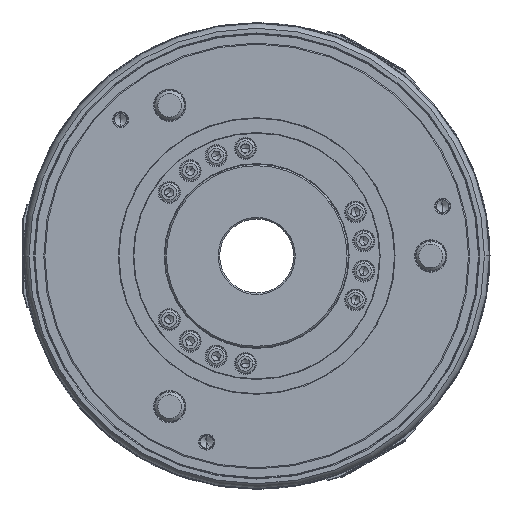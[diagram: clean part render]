
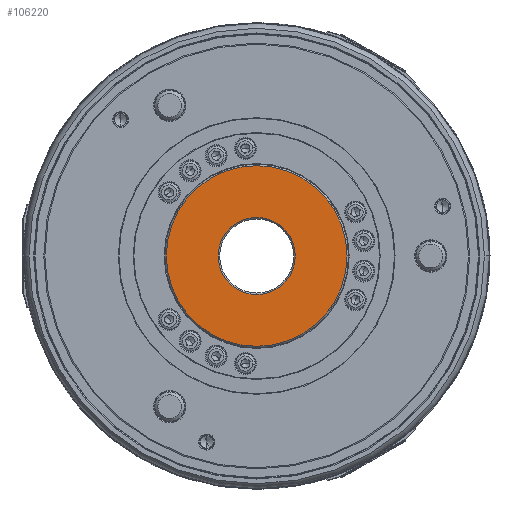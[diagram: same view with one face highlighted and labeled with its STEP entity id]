
A CAD part, left-side view. The second image highlights one B-rep face of the part: STEP entity #106220.
In plain terms, the highlighted planar face has unit normal (-1, 0, 0).
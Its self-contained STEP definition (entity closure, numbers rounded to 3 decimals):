
#241 = CARTESIAN_POINT ( 'NONE',  ( 0., 0., 0. ) ) ;
#7878 = ORIENTED_EDGE ( 'NONE', *, *, #39137, .F. ) ;
#10864 = DIRECTION ( 'NONE',  ( -1., 0., 0. ) ) ;
#12104 = DIRECTION ( 'NONE',  ( 0., 0., -1. ) ) ;
#16292 = DIRECTION ( 'NONE',  ( 0., 0., -1. ) ) ;
#18976 = FACE_BOUND ( 'NONE', #77945, .T. ) ;
#21266 = ORIENTED_EDGE ( 'NONE', *, *, #42487, .T. ) ;
#21554 = CARTESIAN_POINT ( 'NONE',  ( 0., 0., 26. ) ) ;
#22341 = AXIS2_PLACEMENT_3D ( 'NONE', #106155, #10864, #53074 ) ;
#26490 = PLANE ( 'NONE',  #22341 ) ;
#28187 = FACE_OUTER_BOUND ( 'NONE', #98022, .T. ) ;
#30757 = AXIS2_PLACEMENT_3D ( 'NONE', #91202, #65803, #12104 ) ;
#32665 = DIRECTION ( 'NONE',  ( 0., 0., -1. ) ) ;
#39137 = EDGE_CURVE ( 'NONE', #75188, #96956, #73797, .T. ) ;
#42487 = EDGE_CURVE ( 'NONE', #71600, #53551, #107324, .T. ) ;
#45609 = ORIENTED_EDGE ( 'NONE', *, *, #76227, .F. ) ;
#53074 = DIRECTION ( 'NONE',  ( 0., 0., 1. ) ) ;
#53551 = VERTEX_POINT ( 'NONE', #21554 ) ;
#54732 = CIRCLE ( 'NONE', #30757, 26. ) ;
#57592 = AXIS2_PLACEMENT_3D ( 'NONE', #241, #60877, #104732 ) ;
#59628 = CARTESIAN_POINT ( 'NONE',  ( 0., 0., 0. ) ) ;
#60877 = DIRECTION ( 'NONE',  ( 1., 0., 0. ) ) ;
#62753 = AXIS2_PLACEMENT_3D ( 'NONE', #59628, #85605, #16292 ) ;
#65803 = DIRECTION ( 'NONE',  ( 1., 0., 0. ) ) ;
#70673 = ORIENTED_EDGE ( 'NONE', *, *, #85197, .T. ) ;
#71600 = VERTEX_POINT ( 'NONE', #92807 ) ;
#73797 = CIRCLE ( 'NONE', #88547, 61. ) ;
#75188 = VERTEX_POINT ( 'NONE', #107834 ) ;
#76227 = EDGE_CURVE ( 'NONE', #96956, #75188, #105098, .T. ) ;
#76554 = CARTESIAN_POINT ( 'NONE',  ( 0., 0., 0. ) ) ;
#77945 = EDGE_LOOP ( 'NONE', ( #70673, #21266 ) ) ;
#85197 = EDGE_CURVE ( 'NONE', #53551, #71600, #54732, .T. ) ;
#85605 = DIRECTION ( 'NONE',  ( 1., 0., 0. ) ) ;
#88547 = AXIS2_PLACEMENT_3D ( 'NONE', #76554, #111767, #32665 ) ;
#91202 = CARTESIAN_POINT ( 'NONE',  ( 0., 0., 0. ) ) ;
#92807 = CARTESIAN_POINT ( 'NONE',  ( 0., 0., -26. ) ) ;
#96956 = VERTEX_POINT ( 'NONE', #111067 ) ;
#98022 = EDGE_LOOP ( 'NONE', ( #7878, #45609 ) ) ;
#104732 = DIRECTION ( 'NONE',  ( 0., 0., -1. ) ) ;
#105098 = CIRCLE ( 'NONE', #62753, 61. ) ;
#106155 = CARTESIAN_POINT ( 'NONE',  ( 0., 0., -26. ) ) ;
#106220 = ADVANCED_FACE ( 'NONE', ( #18976, #28187 ), #26490, .T. ) ;
#107324 = CIRCLE ( 'NONE', #57592, 26. ) ;
#107834 = CARTESIAN_POINT ( 'NONE',  ( 0., 0., -61. ) ) ;
#111067 = CARTESIAN_POINT ( 'NONE',  ( 0., 0., 61. ) ) ;
#111767 = DIRECTION ( 'NONE',  ( 1., 0., 0. ) ) ;
